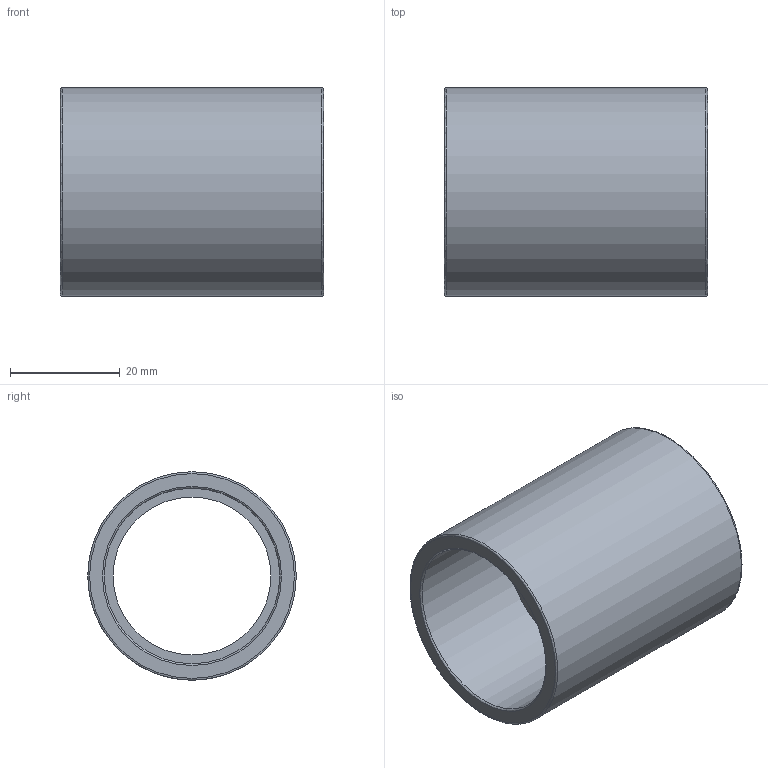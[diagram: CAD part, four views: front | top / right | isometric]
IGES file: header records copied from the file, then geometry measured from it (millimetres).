
Global section: file name: 050100032.ipt; native system: Autodesk Inventor 2015; preprocessor: unknown; author: KIM; date: 20171207.164005; units: millimetre
Bounding box: 48 x 38 x 38 mm (x, y, z)
Volume: 16435.2 mm3; surface area: 11420.5 mm2
Topology: 1 solids, 1 shells, 12 faces, 34 edges, 26 vertices
Faces by surface type: revolution 7, plane 4, cylinder 1
Full cylindrical faces by diameter (mm): 38 x1
